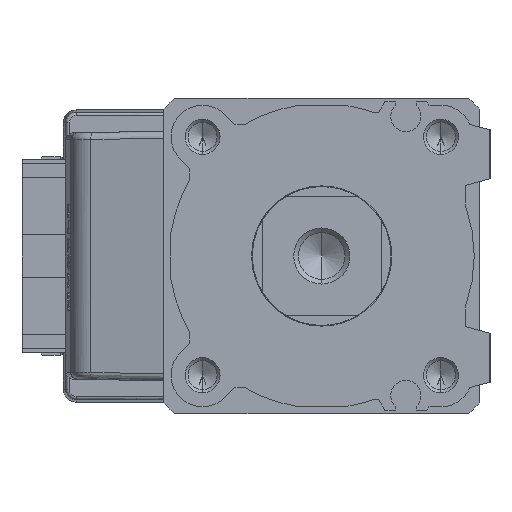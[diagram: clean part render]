
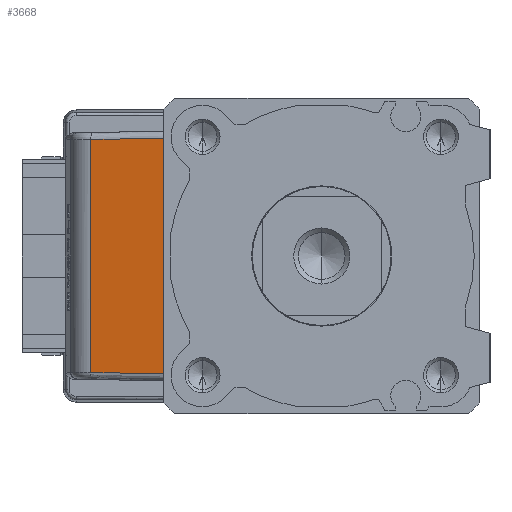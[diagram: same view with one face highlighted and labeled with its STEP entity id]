
A CAD part, left-side view. The second image highlights one B-rep face of the part: STEP entity #3668.
In plain terms, the highlighted planar face has unit normal (-0.985, 0.174, 0) as drawn and (0, 0.174, 0.985) by its records, which use the part's own axes.
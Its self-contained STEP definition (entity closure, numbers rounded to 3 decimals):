
#426 = EDGE_LOOP ( 'NONE', ( #26872, #5521, #7428, #10459 ) ) ;
#2569 = VECTOR ( 'NONE', #27991, 1000. ) ;
#3213 = DIRECTION ( 'NONE',  ( 1., 0., 0. ) ) ;
#3297 = CARTESIAN_POINT ( 'NONE',  ( 16.825, 21., -38.277 ) ) ;
#3630 = DIRECTION ( 'NONE',  ( -0.017, 0.985, -0.174 ) ) ;
#3668 = ADVANCED_FACE ( 'NONE', ( #39801 ), #11732, .F. ) ;
#5521 = ORIENTED_EDGE ( 'NONE', *, *, #14226, .T. ) ;
#7428 = ORIENTED_EDGE ( 'NONE', *, *, #26202, .T. ) ;
#7599 = CARTESIAN_POINT ( 'NONE',  ( -16.617, 32.922, -40.379 ) ) ;
#7829 = AXIS2_PLACEMENT_3D ( 'NONE', #37099, #18028, #30575 ) ;
#7954 = CARTESIAN_POINT ( 'NONE',  ( -16.825, 21., -38.277 ) ) ;
#7981 = EDGE_CURVE ( 'NONE', #10296, #13133, #35558, .T. ) ;
#8499 = CARTESIAN_POINT ( 'NONE',  ( -17.568, 32.922, -40.379 ) ) ;
#10296 = VERTEX_POINT ( 'NONE', #3297 ) ;
#10459 = ORIENTED_EDGE ( 'NONE', *, *, #7981, .T. ) ;
#11732 = PLANE ( 'NONE',  #7829 ) ;
#13133 = VERTEX_POINT ( 'NONE', #19790 ) ;
#14226 = EDGE_CURVE ( 'NONE', #33758, #38049, #38234, .T. ) ;
#16489 = CARTESIAN_POINT ( 'NONE',  ( 16.617, 32.905, -40.376 ) ) ;
#18028 = DIRECTION ( 'NONE',  ( 0., -0.174, -0.985 ) ) ;
#19790 = CARTESIAN_POINT ( 'NONE',  ( 16.617, 32.922, -40.379 ) ) ;
#20592 = VECTOR ( 'NONE', #33113, 1000. ) ;
#21354 = LINE ( 'NONE', #25839, #21767 ) ;
#21767 = VECTOR ( 'NONE', #3213, 1000. ) ;
#24026 = LINE ( 'NONE', #8499, #20592 ) ;
#25839 = CARTESIAN_POINT ( 'NONE',  ( 0., 21., -38.277 ) ) ;
#26202 = EDGE_CURVE ( 'NONE', #38049, #10296, #21354, .T. ) ;
#26872 = ORIENTED_EDGE ( 'NONE', *, *, #32678, .T. ) ;
#27991 = DIRECTION ( 'NONE',  ( -0.017, -0.985, 0.174 ) ) ;
#30575 = DIRECTION ( 'NONE',  ( 1., 0., 0. ) ) ;
#32678 = EDGE_CURVE ( 'NONE', #13133, #33758, #24026, .T. ) ;
#33113 = DIRECTION ( 'NONE',  ( -1., 0., 0. ) ) ;
#33758 = VERTEX_POINT ( 'NONE', #7599 ) ;
#35558 = LINE ( 'NONE', #16489, #39991 ) ;
#37099 = CARTESIAN_POINT ( 'NONE',  ( 0., 21.26, -38.323 ) ) ;
#37401 = CARTESIAN_POINT ( 'NONE',  ( -16.825, 20.983, -38.274 ) ) ;
#38049 = VERTEX_POINT ( 'NONE', #7954 ) ;
#38234 = LINE ( 'NONE', #37401, #2569 ) ;
#39801 = FACE_OUTER_BOUND ( 'NONE', #426, .T. ) ;
#39991 = VECTOR ( 'NONE', #3630, 1000. ) ;
